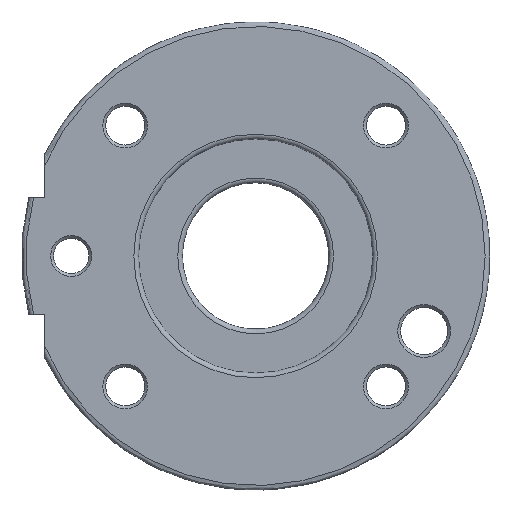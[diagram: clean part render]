
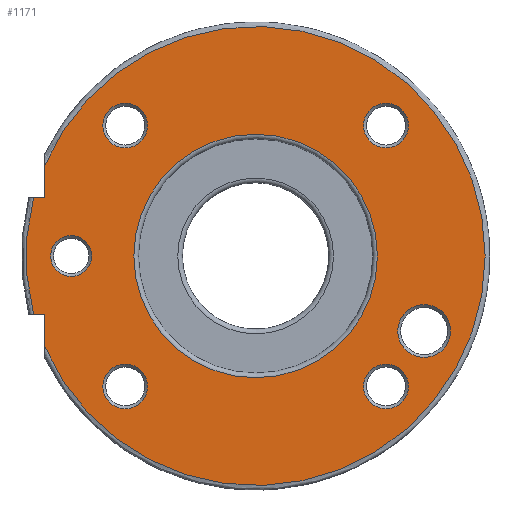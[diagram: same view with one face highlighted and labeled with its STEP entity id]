
A CAD part, front view. The second image highlights one B-rep face of the part: STEP entity #1171.
In plain terms, the highlighted planar face has unit normal (0, -1, 0).
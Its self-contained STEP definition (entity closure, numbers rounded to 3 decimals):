
#15=FACE_BOUND('',#302,.T.);
#16=FACE_BOUND('',#303,.T.);
#17=FACE_BOUND('',#304,.T.);
#18=FACE_BOUND('',#305,.T.);
#19=FACE_BOUND('',#306,.T.);
#20=FACE_BOUND('',#307,.T.);
#21=FACE_BOUND('',#308,.T.);
#92=LINE('',#2111,#157);
#93=LINE('',#2113,#158);
#94=LINE('',#2117,#159);
#95=LINE('',#2119,#160);
#157=VECTOR('',#1481,5.513);
#158=VECTOR('',#1482,1.903);
#159=VECTOR('',#1485,1.903);
#160=VECTOR('',#1486,5.513);
#207=PLANE('',#1274);
#235=FACE_OUTER_BOUND('',#301,.T.);
#301=EDGE_LOOP('',(#879,#880,#881,#882,#883,#884));
#302=EDGE_LOOP('',(#885));
#303=EDGE_LOOP('',(#886));
#304=EDGE_LOOP('',(#887));
#305=EDGE_LOOP('',(#888));
#306=EDGE_LOOP('',(#889,#890));
#307=EDGE_LOOP('',(#891));
#308=EDGE_LOOP('',(#892));
#391=CIRCLE('',#1273,3.5);
#392=CIRCLE('',#1275,39.2);
#393=CIRCLE('',#1276,39.2);
#394=CIRCLE('',#1277,3.824);
#395=CIRCLE('',#1278,3.824);
#396=CIRCLE('',#1279,3.824);
#397=CIRCLE('',#1280,3.824);
#398=CIRCLE('',#1281,20.8);
#399=CIRCLE('',#1282,20.8);
#400=CIRCLE('',#1283,4.5);
#529=VERTEX_POINT('',#2105);
#530=VERTEX_POINT('',#2109);
#531=VERTEX_POINT('',#2110);
#532=VERTEX_POINT('',#2112);
#533=VERTEX_POINT('',#2114);
#534=VERTEX_POINT('',#2116);
#535=VERTEX_POINT('',#2118);
#536=VERTEX_POINT('',#2121);
#537=VERTEX_POINT('',#2123);
#538=VERTEX_POINT('',#2125);
#539=VERTEX_POINT('',#2127);
#540=VERTEX_POINT('',#2129);
#541=VERTEX_POINT('',#2130);
#542=VERTEX_POINT('',#2133);
#668=EDGE_CURVE('',#529,#529,#391,.T.);
#669=EDGE_CURVE('',#530,#531,#92,.T.);
#670=EDGE_CURVE('',#531,#532,#93,.T.);
#671=EDGE_CURVE('',#533,#532,#392,.T.);
#672=EDGE_CURVE('',#533,#534,#94,.T.);
#673=EDGE_CURVE('',#534,#535,#95,.T.);
#674=EDGE_CURVE('',#530,#535,#393,.T.);
#675=EDGE_CURVE('',#536,#536,#394,.T.);
#676=EDGE_CURVE('',#537,#537,#395,.T.);
#677=EDGE_CURVE('',#538,#538,#396,.T.);
#678=EDGE_CURVE('',#539,#539,#397,.T.);
#679=EDGE_CURVE('',#540,#541,#398,.T.);
#680=EDGE_CURVE('',#541,#540,#399,.T.);
#681=EDGE_CURVE('',#542,#542,#400,.T.);
#879=ORIENTED_EDGE('',*,*,#669,.T.);
#880=ORIENTED_EDGE('',*,*,#670,.T.);
#881=ORIENTED_EDGE('',*,*,#671,.F.);
#882=ORIENTED_EDGE('',*,*,#672,.T.);
#883=ORIENTED_EDGE('',*,*,#673,.T.);
#884=ORIENTED_EDGE('',*,*,#674,.F.);
#885=ORIENTED_EDGE('',*,*,#675,.F.);
#886=ORIENTED_EDGE('',*,*,#676,.F.);
#887=ORIENTED_EDGE('',*,*,#677,.F.);
#888=ORIENTED_EDGE('',*,*,#678,.F.);
#889=ORIENTED_EDGE('',*,*,#679,.F.);
#890=ORIENTED_EDGE('',*,*,#680,.F.);
#891=ORIENTED_EDGE('',*,*,#668,.F.);
#892=ORIENTED_EDGE('',*,*,#681,.F.);
#1171=ADVANCED_FACE('',(#235,#15,#16,#17,#18,#19,#20,#21),#207,.T.);
#1273=AXIS2_PLACEMENT_3D('',#2107,#1477,#1478);
#1274=AXIS2_PLACEMENT_3D('',#2108,#1479,#1480);
#1275=AXIS2_PLACEMENT_3D('',#2115,#1483,#1484);
#1276=AXIS2_PLACEMENT_3D('',#2120,#1487,#1488);
#1277=AXIS2_PLACEMENT_3D('',#2122,#1489,#1490);
#1278=AXIS2_PLACEMENT_3D('',#2124,#1491,#1492);
#1279=AXIS2_PLACEMENT_3D('',#2126,#1493,#1494);
#1280=AXIS2_PLACEMENT_3D('',#2128,#1495,#1496);
#1281=AXIS2_PLACEMENT_3D('',#2131,#1497,#1498);
#1282=AXIS2_PLACEMENT_3D('',#2132,#1499,#1500);
#1283=AXIS2_PLACEMENT_3D('',#2134,#1501,#1502);
#1477=DIRECTION('center_axis',(0.,-1.,0.));
#1478=DIRECTION('ref_axis',(0.,0.,
1.));
#1479=DIRECTION('center_axis',(0.,-1.,0.));
#1480=DIRECTION('ref_axis',(1.,0.,0.));
#1481=DIRECTION('',(0.,0.,-1.));
#1482=DIRECTION('',(-1.,0.,0.));
#1483=DIRECTION('center_axis',(0.,1.,0.));
#1484=DIRECTION('ref_axis',(0.,0.,
1.));
#1485=DIRECTION('',(1.,0.,0.));
#1486=DIRECTION('',(0.,0.,-1.));
#1487=DIRECTION('center_axis',(0.,1.,0.));
#1488=DIRECTION('ref_axis',(0.,0.,
1.));
#1489=DIRECTION('center_axis',(0.,-1.,0.));
#1490=DIRECTION('ref_axis',(0.,0.,
1.));
#1491=DIRECTION('center_axis',(0.,-1.,0.));
#1492=DIRECTION('ref_axis',(0.,0.,
1.));
#1493=DIRECTION('center_axis',(0.,-1.,0.));
#1494=DIRECTION('ref_axis',(0.,0.,
1.));
#1495=DIRECTION('center_axis',(0.,-1.,0.));
#1496=DIRECTION('ref_axis',(0.,0.,
1.));
#1497=DIRECTION('center_axis',(0.,-1.,0.));
#1498=DIRECTION('ref_axis',(0.,0.,
1.));
#1499=DIRECTION('center_axis',(0.,-1.,0.));
#1500=DIRECTION('ref_axis',(0.,0.,
1.));
#1501=DIRECTION('center_axis',(0.,-1.,0.));
#1502=DIRECTION('ref_axis',(0.,0.,
1.));
#2105=CARTESIAN_POINT('',(-31.5,-14.96,-3.5));
#2107=CARTESIAN_POINT('Origin',(-31.5,-14.96,0.));
#2108=CARTESIAN_POINT('Origin',(0.,-14.96,-30.));
#2109=CARTESIAN_POINT('',(-36.,-14.96,15.513));
#2110=CARTESIAN_POINT('',(-36.,-14.96,10.));
#2111=CARTESIAN_POINT('',(-36.,-14.96,-6.108));
#2112=CARTESIAN_POINT('',(-37.903,-14.96,10.));
#2113=CARTESIAN_POINT('',(-20.,-14.96,10.));
#2114=CARTESIAN_POINT('',(-37.903,-14.96,-10.));
#2115=CARTESIAN_POINT('Origin',(0.,-14.96,
0.));
#2116=CARTESIAN_POINT('',(-36.,-14.96,-10.));
#2117=CARTESIAN_POINT('',(-20.,-14.96,-10.));
#2118=CARTESIAN_POINT('',(-36.,-14.96,-15.513));
#2119=CARTESIAN_POINT('',(-36.,-14.96,-23.892));
#2120=CARTESIAN_POINT('Origin',(0.,-14.96,
0.));
#2121=CARTESIAN_POINT('',(-22.274,-14.96,-26.097));
#2122=CARTESIAN_POINT('Origin',(-22.274,-14.96,-22.274));
#2123=CARTESIAN_POINT('',(22.274,-14.96,18.45));
#2124=CARTESIAN_POINT('Origin',(22.274,-14.96,22.274));
#2125=CARTESIAN_POINT('',(22.274,-14.96,-26.097));
#2126=CARTESIAN_POINT('Origin',(22.274,-14.96,-22.274));
#2127=CARTESIAN_POINT('',(-22.274,-14.96,18.45));
#2128=CARTESIAN_POINT('Origin',(-22.274,-14.96,22.274));
#2129=CARTESIAN_POINT('',(0.,-14.96,-20.8));
#2130=CARTESIAN_POINT('',(20.8,-14.96,0.));
#2131=CARTESIAN_POINT('Origin',(0.,-14.96,
0.));
#2132=CARTESIAN_POINT('Origin',(0.,-14.96,
0.));
#2133=CARTESIAN_POINT('',(28.777,-14.96,-17.312));
#2134=CARTESIAN_POINT('Origin',(28.777,-14.96,-12.812));
